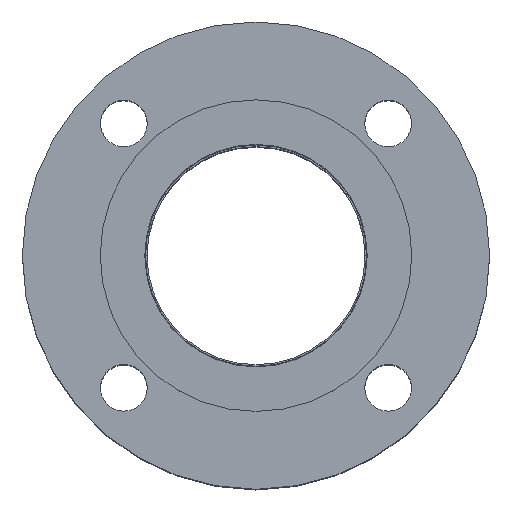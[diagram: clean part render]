
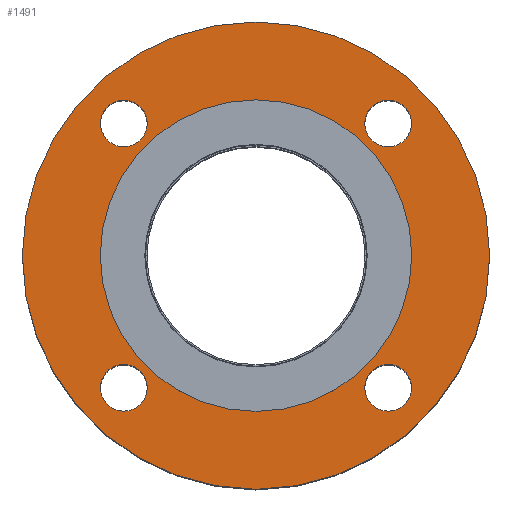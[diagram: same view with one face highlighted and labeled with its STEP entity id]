
A CAD part, top view. The second image highlights one B-rep face of the part: STEP entity #1491.
In plain terms, the highlighted planar face has unit normal (0, 0, 1).
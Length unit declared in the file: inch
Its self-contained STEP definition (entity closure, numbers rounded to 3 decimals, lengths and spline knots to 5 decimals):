
#80=FACE_BOUND('',#391,.T.);
#81=FACE_BOUND('',#392,.T.);
#82=FACE_BOUND('',#393,.T.);
#83=FACE_BOUND('',#394,.T.);
#84=FACE_BOUND('',#395,.T.);
#142=PLANE('',#1684);
#261=FACE_OUTER_BOUND('',#390,.T.);
#390=EDGE_LOOP('',(#1133));
#391=EDGE_LOOP('',(#1134));
#392=EDGE_LOOP('',(#1135));
#393=EDGE_LOOP('',(#1136));
#394=EDGE_LOOP('',(#1137));
#395=EDGE_LOOP('',(#1138));
#583=CIRCLE('',#1651,0.375);
#585=CIRCLE('',#1654,0.375);
#587=CIRCLE('',#1657,0.375);
#589=CIRCLE('',#1660,0.375);
#602=CIRCLE('',#1679,2.5);
#604=CIRCLE('',#1683,3.75);
#763=VERTEX_POINT('',#2626);
#765=VERTEX_POINT('',#2632);
#767=VERTEX_POINT('',#2638);
#769=VERTEX_POINT('',#2644);
#780=VERTEX_POINT('',#2676);
#782=VERTEX_POINT('',#2683);
#891=EDGE_CURVE('',#763,#763,#583,.T.);
#894=EDGE_CURVE('',#765,#765,#585,.T.);
#897=EDGE_CURVE('',#767,#767,#587,.T.);
#900=EDGE_CURVE('',#769,#769,#589,.T.);
#916=EDGE_CURVE('',#780,#780,#602,.T.);
#918=EDGE_CURVE('',#782,#782,#604,.T.);
#1133=ORIENTED_EDGE('',*,*,#918,.T.);
#1134=ORIENTED_EDGE('',*,*,#891,.T.);
#1135=ORIENTED_EDGE('',*,*,#894,.T.);
#1136=ORIENTED_EDGE('',*,*,#897,.T.);
#1137=ORIENTED_EDGE('',*,*,#900,.T.);
#1138=ORIENTED_EDGE('',*,*,#916,.T.);
#1491=ADVANCED_FACE('',(#261,#80,#81,#82,#83,#84),#142,.T.);
#1651=AXIS2_PLACEMENT_3D('',#2627,#1975,#1976);
#1654=AXIS2_PLACEMENT_3D('',#2633,#1982,#1983);
#1657=AXIS2_PLACEMENT_3D('',#2639,#1989,#1990);
#1660=AXIS2_PLACEMENT_3D('',#2645,#1996,#1997);
#1679=AXIS2_PLACEMENT_3D('',#2678,#2037,#2038);
#1683=AXIS2_PLACEMENT_3D('',#2684,#2045,#2046);
#1684=AXIS2_PLACEMENT_3D('',#2686,#2048,#2049);
#1975=DIRECTION('center_axis',(0.,0.,-1.));
#1976=DIRECTION('ref_axis',(0.,-1.,0.));
#1982=DIRECTION('center_axis',(0.,0.,-1.));
#1983=DIRECTION('ref_axis',(-1.,0.,0.));
#1989=DIRECTION('center_axis',(0.,0.,-1.));
#1990=DIRECTION('ref_axis',(0.,1.,0.));
#1996=DIRECTION('center_axis',(0.,0.,-1.));
#1997=DIRECTION('ref_axis',(1.,0.,0.));
#2037=DIRECTION('center_axis',(0.,0.,-1.));
#2038=DIRECTION('ref_axis',(0.,1.,0.));
#2045=DIRECTION('center_axis',(0.,0.,1.));
#2046=DIRECTION('ref_axis',(1.,0.,0.));
#2048=DIRECTION('center_axis',(0.,0.,1.));
#2049=DIRECTION('ref_axis',(1.,0.,0.));
#2626=CARTESIAN_POINT('',(2.12132,2.49632,0.44));
#2627=CARTESIAN_POINT('Origin',(2.12132,2.12132,0.44));
#2632=CARTESIAN_POINT('',(2.49632,-2.12132,0.44));
#2633=CARTESIAN_POINT('Origin',(2.12132,-2.12132,0.44));
#2638=CARTESIAN_POINT('',(-2.12132,-2.49632,0.44));
#2639=CARTESIAN_POINT('Origin',(-2.12132,-2.12132,0.44));
#2644=CARTESIAN_POINT('',(-2.49632,2.12132,0.44));
#2645=CARTESIAN_POINT('Origin',(-2.12132,2.12132,0.44));
#2676=CARTESIAN_POINT('',(0.,-2.5,0.44));
#2678=CARTESIAN_POINT('Origin',(0.,0.,0.44));
#2683=CARTESIAN_POINT('',(0.,-3.75,0.44));
#2684=CARTESIAN_POINT('Origin',(0.,0.,0.44));
#2686=CARTESIAN_POINT('Origin',(0.,1.785,0.44));
